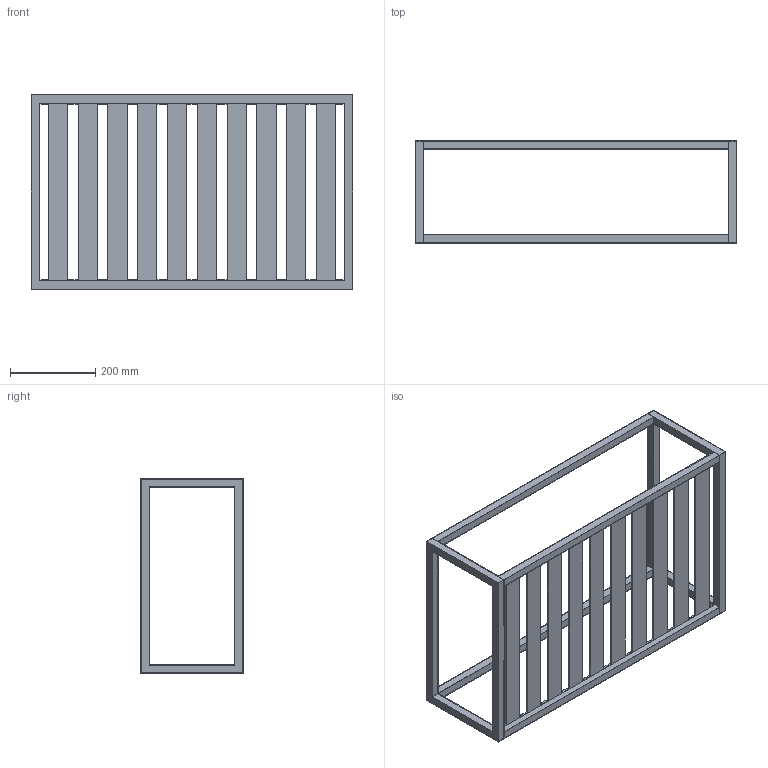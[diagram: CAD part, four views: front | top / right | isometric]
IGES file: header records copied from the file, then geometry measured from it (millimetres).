
Global section: file name: 1100400351_METAL SAC KUTU G756-D458-H240MM MAT SİYAH (KOBOS,; native system: Autodesk Inventor 2024; preprocessor: unknown; author: pc12; date: 20250324.152700; units: millimetre
Bounding box: 756 x 240 x 458 mm (x, y, z)
Volume: 1200448.9 mm3; surface area: 1273709.1 mm2
Topology: 2 solids, 6 shells, 132 faces, 336 edges, 216 vertices
Faces by surface type: bspline 132
